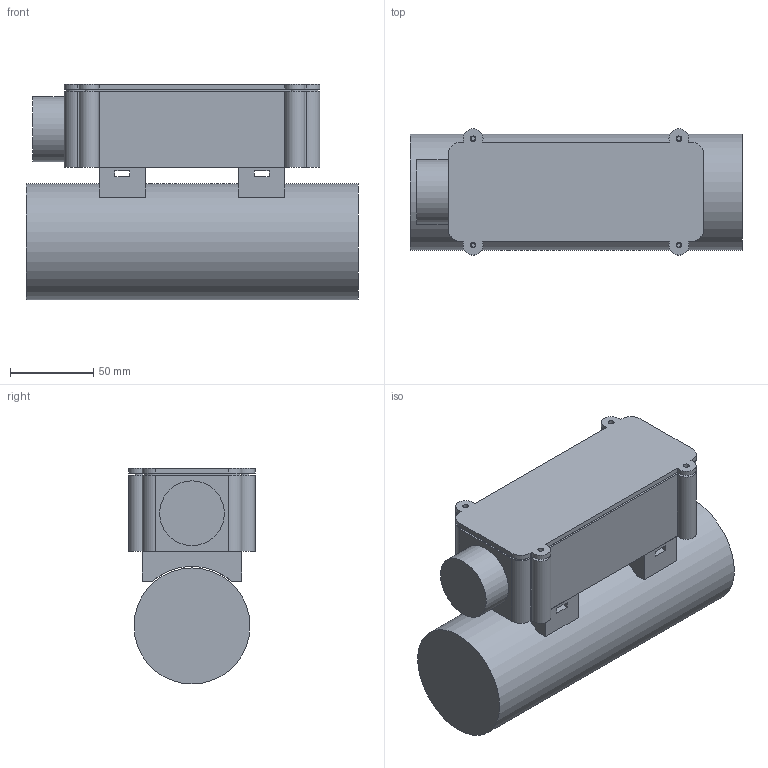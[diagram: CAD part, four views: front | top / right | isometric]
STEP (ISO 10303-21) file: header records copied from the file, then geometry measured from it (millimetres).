
FILE_DESCRIPTION(('Open CASCADE Model'),'2;1');
FILE_NAME('Open CASCADE Shape Model','2026-10-13T15:40:08',('Author'),( 'Open CASCADE'),'Open CASCADE STEP processor 7.9','Open CASCADE 7.9' ,'Unknown');
FILE_SCHEMA(('AUTOMOTIVE_DESIGN { 1 0 10303 214 1 1 1 1 }'));
Length unit declared in the file: millimetre
Products named in the file (12): water_temperature_R1; body; lid; saddle_1; saddle_2; perfboard_REFERENCE; populated_board_clearance_REFERENCE; usb_plug_allowance_REFERENCE; pipe_REFERENCE; ds16_shell_REFERENCE; pg7_locknut_allowance_REFERENCE; gasket_compressed_REFERENCE
Assembly tree (11 placements, depth 2):
  water_temperature_R1
    body
    lid
    saddle_1
    saddle_2
    perfboard_REFERENCE
    populated_board_clearance_REFERENCE
    usb_plug_allowance_REFERENCE
    pipe_REFERENCE
    ds16_shell_REFERENCE
    pg7_locknut_allowance_REFERENCE
    gasket_compressed_REFERENCE
Bounding box: 200 x 76 x 130.05 mm (x, y, z)
Volume: 1054530.9 mm3; surface area: 177994.7 mm2
Topology: 11 solids, 11 shells, 222 faces, 509 edges, 336 vertices
Faces by surface type: plane 124, cylinder 91, bspline 7
Full cylindrical faces by diameter (mm): 1.3 x4, 2 x4, 2.6 x8, 3.4 x8, 4 x4, 5 x4, 7 x4, 9 x4, 13.2 x1, 16.2 x1, 24 x1, 39 x1, 69.85 x1
Entity records: 14908 total; most frequent: CARTESIAN_POINT 4237, DIRECTION 1964, LINE 1060, VECTOR 1060, ORIENTED_EDGE 1018, PCURVE 1018, DEFINITIONAL_REPRESENTATION 1018, EDGE_CURVE 509
